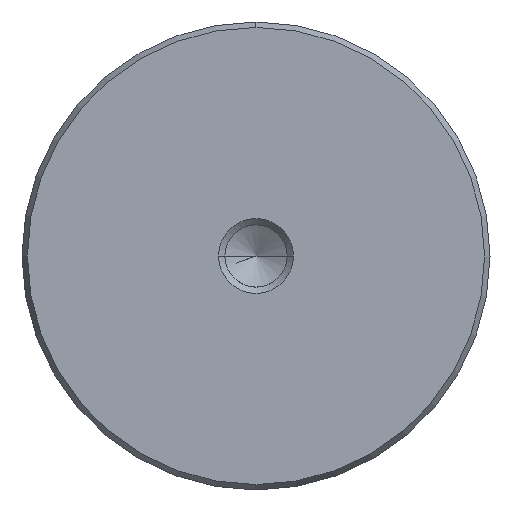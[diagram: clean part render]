
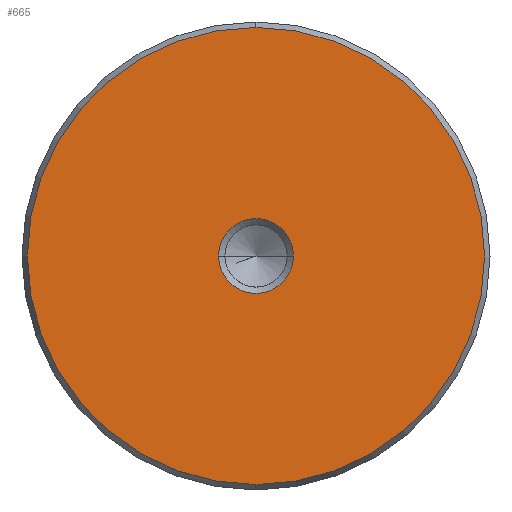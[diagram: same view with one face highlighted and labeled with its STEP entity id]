
A CAD part, left-side view. The second image highlights one B-rep face of the part: STEP entity #665.
In plain terms, the highlighted planar face has unit normal (-1, 0, 0).
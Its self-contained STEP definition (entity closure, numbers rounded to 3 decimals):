
#579=CARTESIAN_POINT('Vertex',(0.,0.,-24.423)) ;
#582=CARTESIAN_POINT('Axis2P3D Location',(0.,0.,0.)) ;
#586=CARTESIAN_POINT('Vertex',(0.,24.423,0.)) ;
#589=CARTESIAN_POINT('Axis2P3D Location',(0.,0.,0.)) ;
#593=CARTESIAN_POINT('Vertex',(0.,0.,24.423)) ;
#615=CARTESIAN_POINT('Axis2P3D Location',(0.,0.,0.)) ;
#619=CARTESIAN_POINT('Vertex',(0.,-24.423,0.)) ;
#622=CARTESIAN_POINT('Axis2P3D Location',(0.,0.,0.)) ;
#636=CARTESIAN_POINT('Axis2P3D Location',(0.,0.,0.)) ;
#647=CARTESIAN_POINT('Axis2P3D Location',(0.,0.,0.)) ;
#651=CARTESIAN_POINT('Vertex',(0.,4.,0.)) ;
#653=CARTESIAN_POINT('Vertex',(0.,-4.,0.)) ;
#656=CARTESIAN_POINT('Axis2P3D Location',(0.,0.,0.)) ;
#583=DIRECTION('Axis2P3D Direction',(1.,0.,-0.)) ;
#590=DIRECTION('Axis2P3D Direction',(1.,0.,-0.)) ;
#616=DIRECTION('Axis2P3D Direction',(1.,0.,-0.)) ;
#623=DIRECTION('Axis2P3D Direction',(1.,0.,-0.)) ;
#637=DIRECTION('Axis2P3D Direction',(1.,0.,-0.)) ;
#638=DIRECTION('Axis2P3D XDirection',(-0.,0.,-1.)) ;
#648=DIRECTION('Axis2P3D Direction',(1.,0.,-0.)) ;
#657=DIRECTION('Axis2P3D Direction',(1.,0.,-0.)) ;
#584=AXIS2_PLACEMENT_3D('Circle Axis2P3D',#582,#583,$) ;
#591=AXIS2_PLACEMENT_3D('Circle Axis2P3D',#589,#590,$) ;
#617=AXIS2_PLACEMENT_3D('Circle Axis2P3D',#615,#616,$) ;
#624=AXIS2_PLACEMENT_3D('Circle Axis2P3D',#622,#623,$) ;
#639=AXIS2_PLACEMENT_3D('Plane Axis2P3D',#636,#637,#638) ;
#649=AXIS2_PLACEMENT_3D('Circle Axis2P3D',#647,#648,$) ;
#658=AXIS2_PLACEMENT_3D('Circle Axis2P3D',#656,#657,$) ;
#642=ORIENTED_EDGE('',*,*,#588,.F.) ;
#643=ORIENTED_EDGE('',*,*,#626,.F.) ;
#644=ORIENTED_EDGE('',*,*,#621,.F.) ;
#645=ORIENTED_EDGE('',*,*,#595,.F.) ;
#662=ORIENTED_EDGE('',*,*,#655,.T.) ;
#663=ORIENTED_EDGE('',*,*,#660,.T.) ;
#664=FACE_BOUND('',#661,.T.) ;
#665=ADVANCED_FACE('720-50x450',(#646,#664),#640,.F.) ;
#585=CIRCLE('generated circle',#584,24.423) ;
#592=CIRCLE('generated circle',#591,24.423) ;
#618=CIRCLE('generated circle',#617,24.423) ;
#625=CIRCLE('generated circle',#624,24.423) ;
#650=CIRCLE('generated circle',#649,4.) ;
#659=CIRCLE('generated circle',#658,4.) ;
#588=EDGE_CURVE('',#580,#587,#585,.T.) ;
#595=EDGE_CURVE('',#587,#594,#592,.T.) ;
#621=EDGE_CURVE('',#594,#620,#618,.T.) ;
#626=EDGE_CURVE('',#620,#580,#625,.T.) ;
#655=EDGE_CURVE('',#652,#654,#650,.T.) ;
#660=EDGE_CURVE('',#654,#652,#659,.T.) ;
#641=EDGE_LOOP('',(#642,#643,#644,#645)) ;
#661=EDGE_LOOP('',(#662,#663)) ;
#646=FACE_OUTER_BOUND('',#641,.T.) ;
#640=PLANE('Plane',#639) ;
#580=VERTEX_POINT('',#579) ;
#587=VERTEX_POINT('',#586) ;
#594=VERTEX_POINT('',#593) ;
#620=VERTEX_POINT('',#619) ;
#652=VERTEX_POINT('',#651) ;
#654=VERTEX_POINT('',#653) ;
